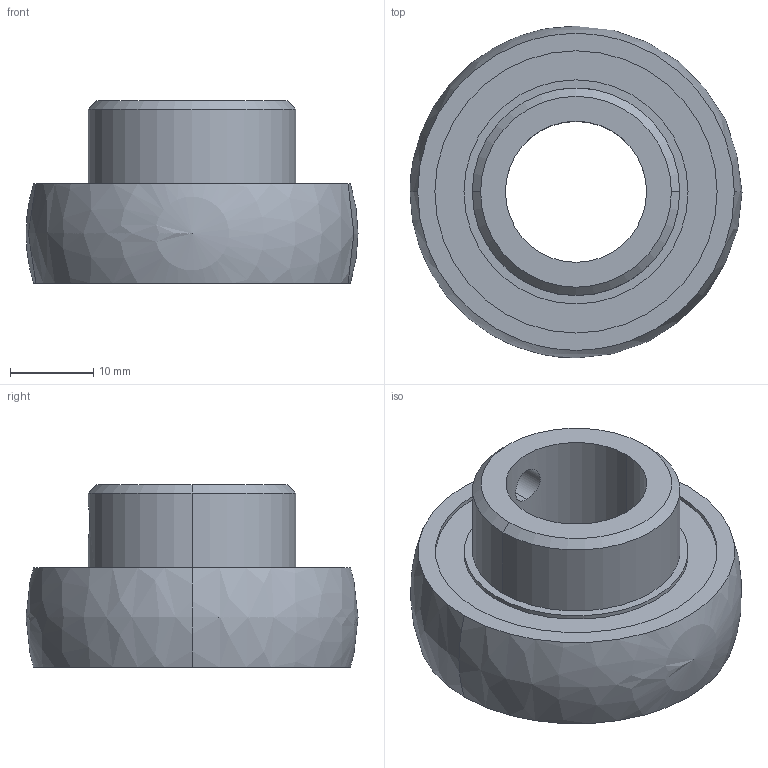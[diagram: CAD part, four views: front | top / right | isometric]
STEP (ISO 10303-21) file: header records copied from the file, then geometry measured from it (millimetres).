
FILE_DESCRIPTION (( 'STEP AP203' ), '1' );
FILE_NAME ('084.802.017.STEP', '2013-01-29T12:21:05', ( 'Alusic' ), ( 'Alusic' ), 'SwSTEP 2.0', 'SolidWorks 2011', '' );
FILE_SCHEMA (( 'CONFIG_CONTROL_DESIGN' ));
Length unit declared in the file: millimetre
Products named in the file (1): 084.802.017
Bounding box: 40 x 40 x 22 mm (x, y, z)
Volume: 12810 mm3; surface area: 10089.8 mm2
Topology: 2 solids, 3 shells, 45 faces, 97 edges, 59 vertices
Faces by surface type: cylinder 22, torus 10, plane 9, cone 2, sphere 2
Entity records: 1395 total; most frequent: CARTESIAN_POINT 306, DIRECTION 244, ORIENTED_EDGE 184, AXIS2_PLACEMENT_3D 110, EDGE_CURVE 92, CIRCLE 64, EDGE_LOOP 56, VERTEX_POINT 56
